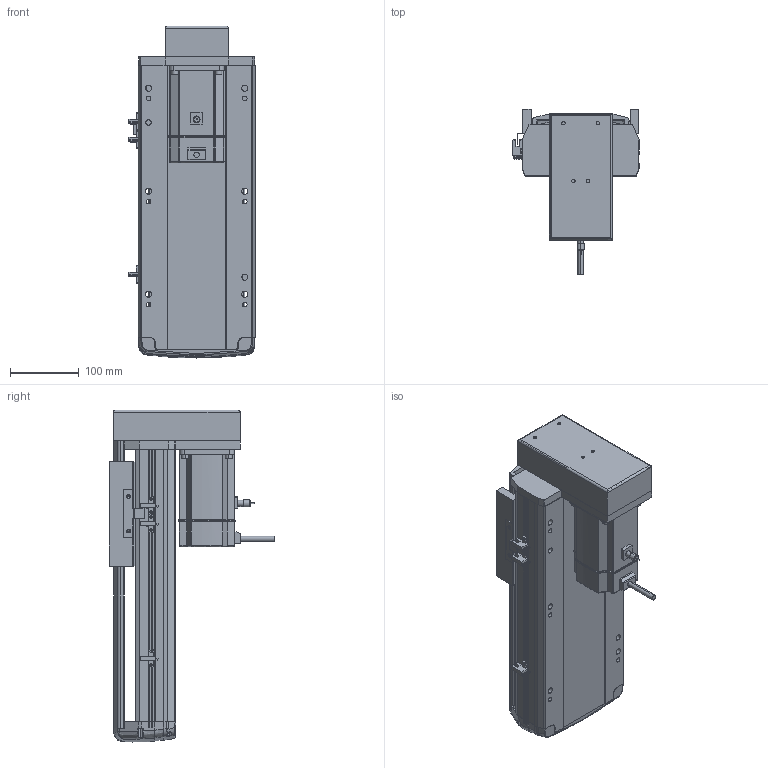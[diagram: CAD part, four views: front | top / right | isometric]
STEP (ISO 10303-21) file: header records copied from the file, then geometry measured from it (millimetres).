
FILE_DESCRIPTION (( 'STEP AP214' ), '1' );
FILE_NAME ('RTH17-XX-200-M-M75-C4.STEP', '2025-10-24T10:21:50', ( '' ), ( '' ), 'SwSTEP 2.0', 'SolidWorks 2018', '' );
FILE_SCHEMA (( 'AUTOMOTIVE_DESIGN' ));
Length unit declared in the file: millimetre
Products named in the file (10): RTH17-XX-200-M-M75-C4; N_RTH17-GY-001P^RTH17-XX-XX-M-M75-C4（方程式）; N_RTH17-M-011底座^RTH17-XX-XX-M-M75-C4（方程式）; N_OMRON EE-SX672 換覜ん^RTH17-XX-XX-M-M75-C4ㄗ源最宒ㄘ; N_RTH17-M-018盖子^RTH17-XX-XX-M-M75-C4（方程式）; N_RTH17-M-007上盖^RTH17-XX-XX-M-M75-C4（方程式）; N_RTH17-M-008-P75电机安装板下折750W^RTH17-XX-XX-M-M75-C4（方程式）; N_M75^RTH17-XX-XX-M-M75-C4（方程式）; N_RTH-BL-012 感应片(外置)^RTH17-XX-XX-M-M75-C4（方程式）; N_RTH17-E-004丝杆螺母连接座^RTH17-XX-XX-M-M75-C4（方程式）
Assembly tree (11 placements, depth 2):
  RTH17-XX-200-M-M75-C4
    N_RTH17-M-011底座^RTH17-XX-XX-M-M75-C4（方程式）
    N_RTH17-M-007上盖^RTH17-XX-XX-M-M75-C4（方程式）
    N_M75^RTH17-XX-XX-M-M75-C4（方程式）
    N_OMRON EE-SX672 換覜ん^RTH17-XX-XX-M-M75-C4ㄗ源最宒ㄘ  x3
    N_RTH-BL-012 感应片(外置)^RTH17-XX-XX-M-M75-C4（方程式）
    N_RTH17-M-008-P75电机安装板下折750W^RTH17-XX-XX-M-M75-C4（方程式）
    N_RTH17-M-018盖子^RTH17-XX-XX-M-M75-C4（方程式）
    N_RTH17-E-004丝杆螺母连接座^RTH17-XX-XX-M-M75-C4（方程式）
    N_RTH17-GY-001P^RTH17-XX-XX-M-M75-C4（方程式）
Bounding box: 183.5 x 240.7 x 483.27 mm (x, y, z)
Volume: 4731814.2 mm3; surface area: 721098.4 mm2
Topology: 10 solids, 12 shells, 1709 faces, 4688 edges, 3032 vertices
Faces by surface type: plane 824, cylinder 471, bspline 377, cone 28, torus 9
Entity records: 49207 total; most frequent: CARTESIAN_POINT 19758, ORIENTED_EDGE 6400, DIRECTION 5314, EDGE_CURVE 3204, VERTEX_POINT 2068, LINE 1772, VECTOR 1772, AXIS2_PLACEMENT_3D 1771
